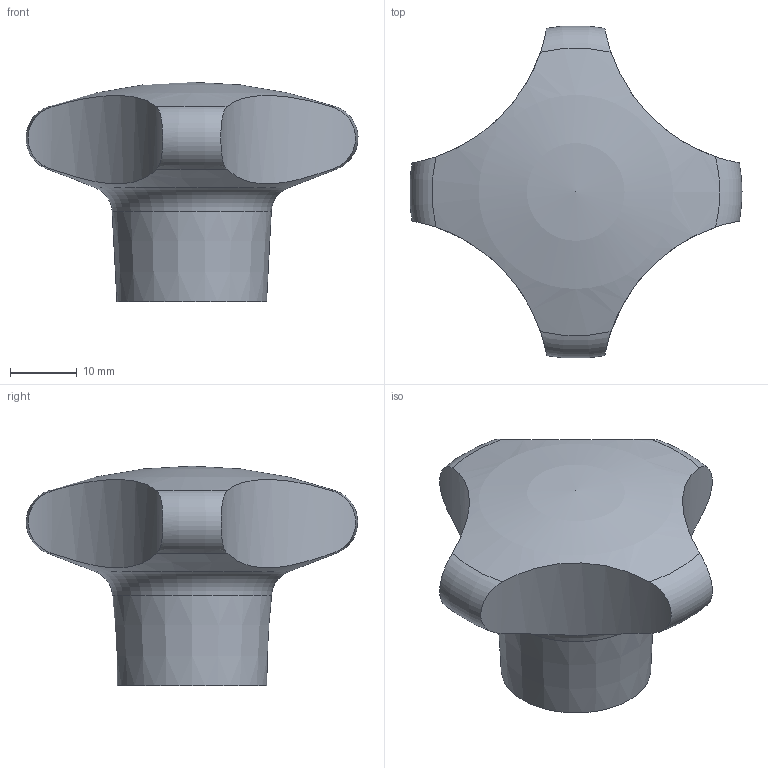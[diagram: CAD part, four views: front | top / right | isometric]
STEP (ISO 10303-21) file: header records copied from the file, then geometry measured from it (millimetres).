
FILE_DESCRIPTION( ('This file contains a STEP AP42 implementation' ,'as created by ZW3D STEP Interface translator.') ,'2;1' );
FILE_NAME( 'Pokretlo krzyzowe 50.stp' ,'26 814.123753', (''), ('ZWCAD Software Co.'), 'Version 1.0', 'ZW3D to STEP translator', '' );
FILE_SCHEMA(('AP242_MANAGED_MODEL_BASED_3D_ENGINEERING_MIM_LF { 1 0 10303 442 1 1 4 }'));
Length unit declared in the file: millimetre
Products named in the file (1): 0
Bounding box: 49.91 x 49.83 x 33 mm (x, y, z)
Volume: 23434.2 mm3; surface area: 7317.2 mm2
Topology: 2 solids, 2 shells, 21 faces, 51 edges, 32 vertices
Faces by surface type: cylinder 7, cone 6, torus 5, plane 2, sphere 1
Full cylindrical faces by diameter (mm): 6.8 x1, 10 x2
Entity records: 734 total; most frequent: CARTESIAN_POINT 229, DIRECTION 97, ORIENTED_EDGE 94, EDGE_CURVE 47, AXIS2_PLACEMENT_3D 44, VERTEX_POINT 32, EDGE_LOOP 23, CIRCLE 22
